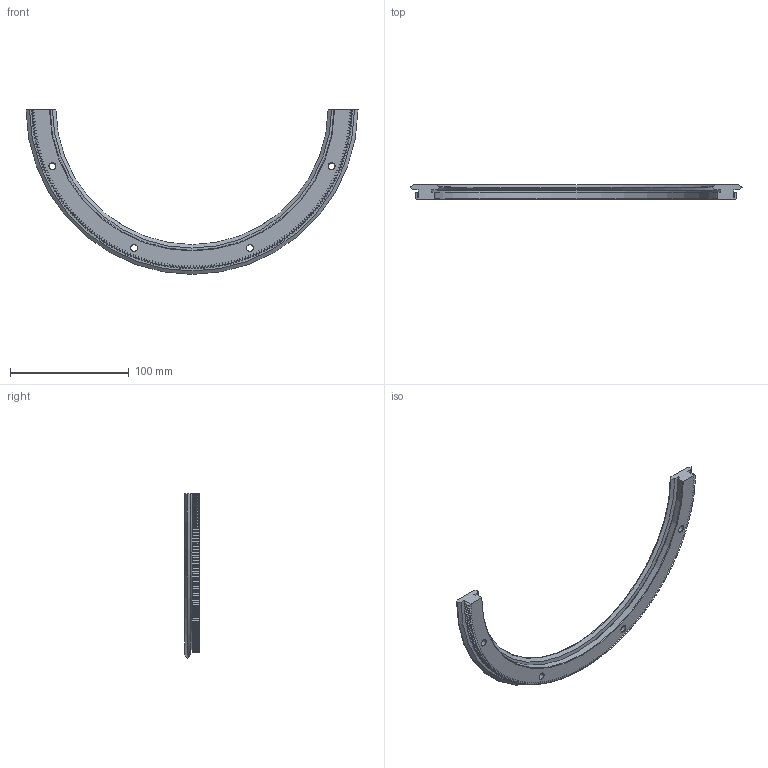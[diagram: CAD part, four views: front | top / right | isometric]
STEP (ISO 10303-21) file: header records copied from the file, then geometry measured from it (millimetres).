
FILE_DESCRIPTION( ( 'STEP AP203' ), '1' );
FILE_NAME( 'p:/temp/worker_71/temp/exporttempdir_3676_169_B5c9W/format_0/R25 255 R180 P.stp', '2021-08-30T04:12:46', ( 'License CC BY-ND 4.0' ), ( 'CADENAS' ), ' ', 'PARTsolutions', ' ' );
FILE_SCHEMA( ( 'CONFIG_CONTROL_DESIGN' ) );
Length unit declared in the file: millimetre
Products named in the file (1): _R25 255 R180 P
Bounding box: 280.18 x 12.25 x 139.09 mm (x, y, z)
Volume: 80481.2 mm3; surface area: 34436.3 mm2
Topology: 1 solids, 1 shells, 1040 faces, 2762 edges, 1728 vertices
Faces by surface type: plane 684, cylinder 178, cone 176, torus 2
Full cylindrical faces by diameter (mm): 5.5 x4, 9 x4
Entity records: 32362 total; most frequent: CARTESIAN_POINT 6576, ORIENTED_EDGE 5500, DIRECTION 5356, EDGE_CURVE 2750, AXIS2_PLACEMENT_3D 1913, VERTEX_POINT 1729, LINE 1530, VECTOR 1530
